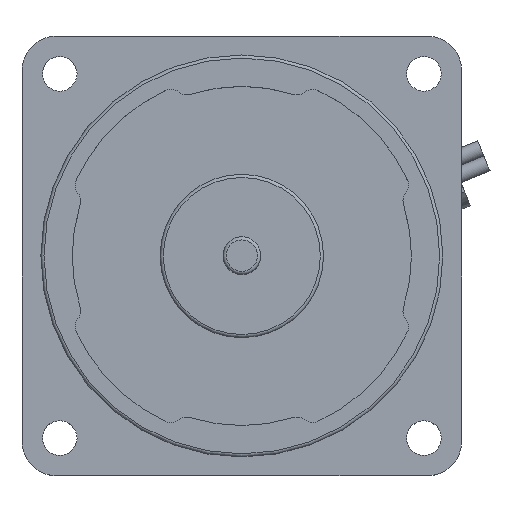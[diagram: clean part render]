
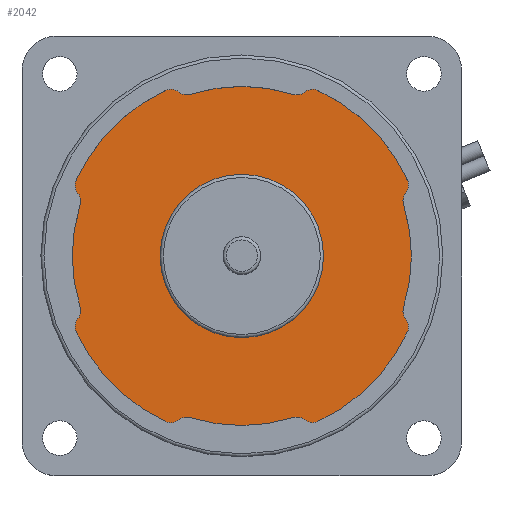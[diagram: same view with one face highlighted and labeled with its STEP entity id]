
A CAD part, top view. The second image highlights one B-rep face of the part: STEP entity #2042.
In plain terms, the highlighted planar face has unit normal (0, 0, 1).
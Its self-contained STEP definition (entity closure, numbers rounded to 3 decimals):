
#971=CARTESIAN_POINT('',(26.096,-10.,76.));
#972=VERTEX_POINT('',#971);
#988=CARTESIAN_POINT('',(25.744,-8.139,76.0));
#989=VERTEX_POINT('',#988);
#996=CARTESIAN_POINT('',(27.651,-8.742,76.));
#997=DIRECTION('',(0.0,0.0,-1.0));
#998=DIRECTION('',(-0.903,-0.43,0.0));
#999=AXIS2_PLACEMENT_3D('',#996,#997,#998);
#1000=CIRCLE('',#999,2.0);
#1001=EDGE_CURVE('',#989,#972,#1000,.F.);
#1011=CARTESIAN_POINT('',(25.744,8.139,76.0));
#1012=VERTEX_POINT('',#1011);
#1021=CARTESIAN_POINT('',(0.,0.,76.0));
#1022=DIRECTION('',(0.0,0.0,1.0));
#1023=DIRECTION('',(-0.93,0.367,0.0));
#1024=AXIS2_PLACEMENT_3D('',#1021,#1022,#1023);
#1025=CIRCLE('',#1024,27.);
#1026=EDGE_CURVE('',#989,#1012,#1025,.T.);
#1044=CARTESIAN_POINT('',(26.096,10.,76.));
#1045=VERTEX_POINT('',#1044);
#1054=CARTESIAN_POINT('',(27.651,8.742,76.));
#1055=DIRECTION('',(0.0,0.0,-1.0));
#1056=DIRECTION('',(-0.903,0.43,0.0));
#1057=AXIS2_PLACEMENT_3D('',#1054,#1055,#1056);
#1058=CIRCLE('',#1057,2.0);
#1059=EDGE_CURVE('',#1045,#1012,#1058,.F.);
#1086=CARTESIAN_POINT('',(26.359,12.092,76.0));
#1087=VERTEX_POINT('',#1086);
#1094=CARTESIAN_POINT('',(24.541,11.258,76.));
#1095=DIRECTION('',(0.0,0.0,1.0));
#1096=DIRECTION('',(-0.777,0.629,0.0));
#1097=AXIS2_PLACEMENT_3D('',#1094,#1095,#1096);
#1098=CIRCLE('',#1097,2.);
#1099=EDGE_CURVE('',#1045,#1087,#1098,.T.);
#1120=CARTESIAN_POINT('',(12.092,26.359,76.0));
#1121=VERTEX_POINT('',#1120);
#1128=CARTESIAN_POINT('',(0.0,0.0,76.0));
#1129=DIRECTION('',(0.0,0.0,1.0));
#1130=DIRECTION('',(-0.93,-0.367,0.0));
#1131=AXIS2_PLACEMENT_3D('',#1128,#1129,#1130);
#1132=CIRCLE('',#1131,29.);
#1133=EDGE_CURVE('',#1087,#1121,#1132,.T.);
#1152=CARTESIAN_POINT('',(10.,26.096,76.));
#1153=VERTEX_POINT('',#1152);
#1160=CARTESIAN_POINT('',(11.258,24.541,76.));
#1161=DIRECTION('',(0.0,0.0,1.0));
#1162=DIRECTION('',(-0.417,-0.909,0.0));
#1163=AXIS2_PLACEMENT_3D('',#1160,#1161,#1162);
#1164=CIRCLE('',#1163,2.);
#1165=EDGE_CURVE('',#1121,#1153,#1164,.T.);
#1186=CARTESIAN_POINT('',(8.139,25.744,76.0));
#1187=VERTEX_POINT('',#1186);
#1194=CARTESIAN_POINT('',(8.742,27.651,76.));
#1195=DIRECTION('',(0.0,0.0,-1.0));
#1196=DIRECTION('',(0.43,-0.903,0.0));
#1197=AXIS2_PLACEMENT_3D('',#1194,#1195,#1196);
#1198=CIRCLE('',#1197,2.0);
#1199=EDGE_CURVE('',#1187,#1153,#1198,.F.);
#1219=CARTESIAN_POINT('',(-8.139,25.744,76.0));
#1220=VERTEX_POINT('',#1219);
#1227=CARTESIAN_POINT('',(0.,0.,76.0));
#1228=DIRECTION('',(0.0,0.0,1.0));
#1229=DIRECTION('',(-0.367,-0.93,0.0));
#1230=AXIS2_PLACEMENT_3D('',#1227,#1228,#1229);
#1231=CIRCLE('',#1230,27.);
#1232=EDGE_CURVE('',#1187,#1220,#1231,.T.);
#1242=CARTESIAN_POINT('',(-10.,26.096,76.));
#1243=VERTEX_POINT('',#1242);
#1252=CARTESIAN_POINT('',(-8.742,27.651,76.));
#1253=DIRECTION('',(0.0,0.0,-1.0));
#1254=DIRECTION('',(-0.43,-0.903,0.0));
#1255=AXIS2_PLACEMENT_3D('',#1252,#1253,#1254);
#1256=CIRCLE('',#1255,2.0);
#1257=EDGE_CURVE('',#1243,#1220,#1256,.F.);
#1284=CARTESIAN_POINT('',(-12.092,26.359,76.0));
#1285=VERTEX_POINT('',#1284);
#1292=CARTESIAN_POINT('',(-11.258,24.541,76.));
#1293=DIRECTION('',(0.0,0.0,1.0));
#1294=DIRECTION('',(-0.629,-0.777,0.0));
#1295=AXIS2_PLACEMENT_3D('',#1292,#1293,#1294);
#1296=CIRCLE('',#1295,2.);
#1297=EDGE_CURVE('',#1243,#1285,#1296,.T.);
#1308=CARTESIAN_POINT('',(-26.359,12.092,76.0));
#1309=VERTEX_POINT('',#1308);
#1318=CARTESIAN_POINT('',(0.0,0.0,76.0));
#1319=DIRECTION('',(0.0,0.0,1.0));
#1320=DIRECTION('',(0.367,-0.93,0.0));
#1321=AXIS2_PLACEMENT_3D('',#1318,#1319,#1320);
#1322=CIRCLE('',#1321,29.0);
#1323=EDGE_CURVE('',#1285,#1309,#1322,.T.);
#1350=CARTESIAN_POINT('',(-26.096,10.,76.));
#1351=VERTEX_POINT('',#1350);
#1358=CARTESIAN_POINT('',(-24.541,11.258,76.));
#1359=DIRECTION('',(0.0,0.0,1.0));
#1360=DIRECTION('',(0.909,-0.417,0.0));
#1361=AXIS2_PLACEMENT_3D('',#1358,#1359,#1360);
#1362=CIRCLE('',#1361,2.);
#1363=EDGE_CURVE('',#1309,#1351,#1362,.T.);
#1384=CARTESIAN_POINT('',(-25.744,8.139,76.0));
#1385=VERTEX_POINT('',#1384);
#1392=CARTESIAN_POINT('',(-27.651,8.742,76.));
#1393=DIRECTION('',(0.0,0.0,-1.0));
#1394=DIRECTION('',(0.903,0.43,0.0));
#1395=AXIS2_PLACEMENT_3D('',#1392,#1393,#1394);
#1396=CIRCLE('',#1395,2.0);
#1397=EDGE_CURVE('',#1385,#1351,#1396,.F.);
#1407=CARTESIAN_POINT('',(-25.744,-8.139,76.0));
#1408=VERTEX_POINT('',#1407);
#1417=CARTESIAN_POINT('',(0.,0.,76.0));
#1418=DIRECTION('',(0.0,0.0,1.0));
#1419=DIRECTION('',(0.93,-0.367,0.0));
#1420=AXIS2_PLACEMENT_3D('',#1417,#1418,#1419);
#1421=CIRCLE('',#1420,27.);
#1422=EDGE_CURVE('',#1385,#1408,#1421,.T.);
#1440=CARTESIAN_POINT('',(-26.096,-10.,76.));
#1441=VERTEX_POINT('',#1440);
#1450=CARTESIAN_POINT('',(-27.651,-8.742,76.));
#1451=DIRECTION('',(0.0,0.0,-1.0));
#1452=DIRECTION('',(0.903,-0.43,0.0));
#1453=AXIS2_PLACEMENT_3D('',#1450,#1451,#1452);
#1454=CIRCLE('',#1453,2.0);
#1455=EDGE_CURVE('',#1441,#1408,#1454,.F.);
#1482=CARTESIAN_POINT('',(-26.359,-12.092,76.0));
#1483=VERTEX_POINT('',#1482);
#1490=CARTESIAN_POINT('',(-24.541,-11.258,76.));
#1491=DIRECTION('',(0.0,0.0,1.0));
#1492=DIRECTION('',(0.777,-0.629,0.0));
#1493=AXIS2_PLACEMENT_3D('',#1490,#1491,#1492);
#1494=CIRCLE('',#1493,2.);
#1495=EDGE_CURVE('',#1441,#1483,#1494,.T.);
#1506=CARTESIAN_POINT('',(-12.092,-26.359,76.0));
#1507=VERTEX_POINT('',#1506);
#1516=CARTESIAN_POINT('',(0.0,0.0,76.0));
#1517=DIRECTION('',(0.0,0.0,1.0));
#1518=DIRECTION('',(0.93,0.367,0.0));
#1519=AXIS2_PLACEMENT_3D('',#1516,#1517,#1518);
#1520=CIRCLE('',#1519,29.);
#1521=EDGE_CURVE('',#1483,#1507,#1520,.T.);
#1548=CARTESIAN_POINT('',(-10.,-26.096,76.));
#1549=VERTEX_POINT('',#1548);
#1556=CARTESIAN_POINT('',(-11.258,-24.541,76.));
#1557=DIRECTION('',(0.0,0.0,1.0));
#1558=DIRECTION('',(0.417,0.909,0.0));
#1559=AXIS2_PLACEMENT_3D('',#1556,#1557,#1558);
#1560=CIRCLE('',#1559,2.);
#1561=EDGE_CURVE('',#1507,#1549,#1560,.T.);
#1582=CARTESIAN_POINT('',(-8.139,-25.744,76.0));
#1583=VERTEX_POINT('',#1582);
#1590=CARTESIAN_POINT('',(-8.742,-27.651,76.));
#1591=DIRECTION('',(0.0,0.0,-1.0));
#1592=DIRECTION('',(-0.43,0.903,0.0));
#1593=AXIS2_PLACEMENT_3D('',#1590,#1591,#1592);
#1594=CIRCLE('',#1593,2.0);
#1595=EDGE_CURVE('',#1583,#1549,#1594,.F.);
#1605=CARTESIAN_POINT('',(8.139,-25.744,76.0));
#1606=VERTEX_POINT('',#1605);
#1615=CARTESIAN_POINT('',(0.,0.,76.0));
#1616=DIRECTION('',(0.0,0.0,1.0));
#1617=DIRECTION('',(0.367,0.93,0.0));
#1618=AXIS2_PLACEMENT_3D('',#1615,#1616,#1617);
#1619=CIRCLE('',#1618,27.0);
#1620=EDGE_CURVE('',#1583,#1606,#1619,.T.);
#1638=CARTESIAN_POINT('',(10.,-26.096,76.));
#1639=VERTEX_POINT('',#1638);
#1648=CARTESIAN_POINT('',(8.742,-27.651,76.));
#1649=DIRECTION('',(0.0,0.0,-1.0));
#1650=DIRECTION('',(0.43,0.903,0.0));
#1651=AXIS2_PLACEMENT_3D('',#1648,#1649,#1650);
#1652=CIRCLE('',#1651,2.0);
#1653=EDGE_CURVE('',#1639,#1606,#1652,.F.);
#1680=CARTESIAN_POINT('',(12.092,-26.359,76.0));
#1681=VERTEX_POINT('',#1680);
#1688=CARTESIAN_POINT('',(11.258,-24.541,76.));
#1689=DIRECTION('',(0.0,0.0,1.0));
#1690=DIRECTION('',(0.629,0.777,0.0));
#1691=AXIS2_PLACEMENT_3D('',#1688,#1689,#1690);
#1692=CIRCLE('',#1691,2.);
#1693=EDGE_CURVE('',#1639,#1681,#1692,.T.);
#1704=CARTESIAN_POINT('',(26.359,-12.092,76.0));
#1705=VERTEX_POINT('',#1704);
#1714=CARTESIAN_POINT('',(0.0,0.0,76.0));
#1715=DIRECTION('',(0.0,0.0,1.0));
#1716=DIRECTION('',(-0.367,0.93,0.0));
#1717=AXIS2_PLACEMENT_3D('',#1714,#1715,#1716);
#1718=CIRCLE('',#1717,29.);
#1719=EDGE_CURVE('',#1681,#1705,#1718,.T.);
#1745=CARTESIAN_POINT('',(24.541,-11.258,76.));
#1746=DIRECTION('',(0.0,0.0,1.0));
#1747=DIRECTION('',(-0.909,0.417,0.0));
#1748=AXIS2_PLACEMENT_3D('',#1745,#1746,#1747);
#1749=CIRCLE('',#1748,2.);
#1750=EDGE_CURVE('',#1705,#972,#1749,.T.);
#1924=CARTESIAN_POINT('',(13.0,0.,76.));
#1925=VERTEX_POINT('',#1924);
#1926=CARTESIAN_POINT('',(0.0,0.0,76.));
#1927=DIRECTION('',(0.0,0.0,-1.0));
#1928=DIRECTION('',(-1.0,0.0,0.0));
#1929=AXIS2_PLACEMENT_3D('',#1926,#1927,#1928);
#1930=CIRCLE('',#1929,13.0);
#1931=EDGE_CURVE('',#1925,#1925,#1930,.T.);
#2008=CARTESIAN_POINT('',(0.,0.,76.));
#2009=DIRECTION('',(0.0,0.0,1.0));
#2010=DIRECTION('',(1.0,0.0,0.0));
#2011=AXIS2_PLACEMENT_3D('',#2008,#2009,#2010);
#2012=PLANE('',#2011);
#2013=ORIENTED_EDGE('',*,*,#1750,.T.);
#2014=ORIENTED_EDGE('',*,*,#1001,.F.);
#2015=ORIENTED_EDGE('',*,*,#1026,.T.);
#2016=ORIENTED_EDGE('',*,*,#1059,.F.);
#2017=ORIENTED_EDGE('',*,*,#1099,.T.);
#2018=ORIENTED_EDGE('',*,*,#1133,.T.);
#2019=ORIENTED_EDGE('',*,*,#1165,.T.);
#2020=ORIENTED_EDGE('',*,*,#1199,.F.);
#2021=ORIENTED_EDGE('',*,*,#1232,.T.);
#2022=ORIENTED_EDGE('',*,*,#1257,.F.);
#2023=ORIENTED_EDGE('',*,*,#1297,.T.);
#2024=ORIENTED_EDGE('',*,*,#1323,.T.);
#2025=ORIENTED_EDGE('',*,*,#1363,.T.);
#2026=ORIENTED_EDGE('',*,*,#1397,.F.);
#2027=ORIENTED_EDGE('',*,*,#1422,.T.);
#2028=ORIENTED_EDGE('',*,*,#1455,.F.);
#2029=ORIENTED_EDGE('',*,*,#1495,.T.);
#2030=ORIENTED_EDGE('',*,*,#1521,.T.);
#2031=ORIENTED_EDGE('',*,*,#1561,.T.);
#2032=ORIENTED_EDGE('',*,*,#1595,.F.);
#2033=ORIENTED_EDGE('',*,*,#1620,.T.);
#2034=ORIENTED_EDGE('',*,*,#1653,.F.);
#2035=ORIENTED_EDGE('',*,*,#1693,.T.);
#2036=ORIENTED_EDGE('',*,*,#1719,.T.);
#2037=EDGE_LOOP('',(#2013,#2014,#2015,#2016,#2017,#2018,#2019,#2020,#2021,#2022,#2023,#2024,#2025,#2026,#2027,#2028,#2029,#2030,#2031,#2032,#2033,#2034,#2035,#2036));
#2038=FACE_OUTER_BOUND('',#2037,.T.);
#2039=ORIENTED_EDGE('',*,*,#1931,.T.);
#2040=EDGE_LOOP('',(#2039));
#2041=FACE_BOUND('',#2040,.T.);
#2042=ADVANCED_FACE('',(#2038,#2041),#2012,.T.);
